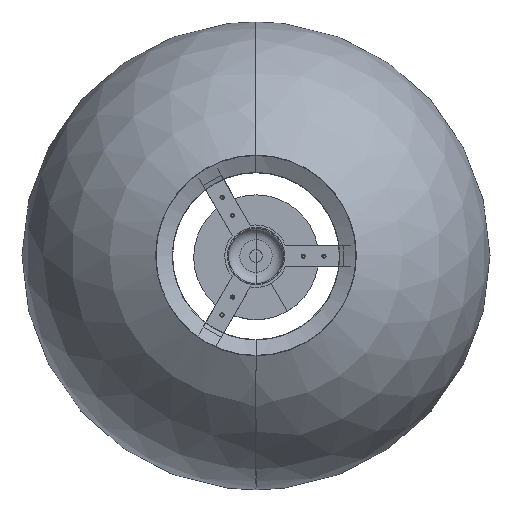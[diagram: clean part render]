
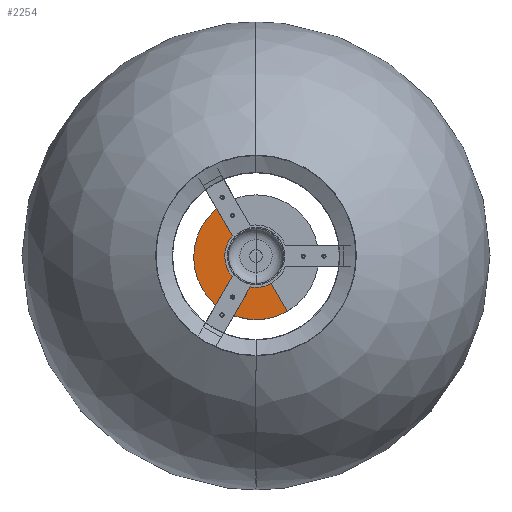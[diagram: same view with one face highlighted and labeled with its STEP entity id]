
A CAD part, top view. The second image highlights one B-rep face of the part: STEP entity #2254.
In plain terms, the highlighted planar face has unit normal (0, 0, 1).
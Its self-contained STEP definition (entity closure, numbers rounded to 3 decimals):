
#37=FACE_BOUND('',#335,.T.);
#110=PLANE('',#2448);
#191=FACE_OUTER_BOUND('',#334,.T.);
#334=EDGE_LOOP('',(#1606,#1607,#1608,#1609,#1610,#1611,#1612,#1613));
#335=EDGE_LOOP('',(#1614,#1615));
#487=LINE('',#4462,#660);
#488=LINE('',#4463,#661);
#489=LINE('',#4464,#662);
#660=VECTOR('',#2825,304.8);
#661=VECTOR('',#2826,304.8);
#662=VECTOR('',#2827,304.8);
#836=CIRCLE('',#2418,5.125);
#837=CIRCLE('',#2420,5.125);
#846=CIRCLE('',#2432,5.125);
#847=CIRCLE('',#2434,5.125);
#849=CIRCLE('',#2437,5.125);
#856=CIRCLE('',#2445,5.125);
#858=CIRCLE('',#2449,60.);
#978=VERTEX_POINT('',#4396);
#982=VERTEX_POINT('',#4404);
#983=VERTEX_POINT('',#4408);
#990=VERTEX_POINT('',#4428);
#992=VERTEX_POINT('',#4432);
#993=VERTEX_POINT('',#4439);
#995=VERTEX_POINT('',#4442);
#1000=VERTEX_POINT('',#4455);
#1001=VERTEX_POINT('',#4459);
#1002=VERTEX_POINT('',#4460);
#1200=EDGE_CURVE('',#978,#982,#836,.T.);
#1201=EDGE_CURVE('',#983,#978,#837,.T.);
#1214=EDGE_CURVE('',#990,#992,#846,.T.);
#1215=EDGE_CURVE('',#992,#990,#847,.T.);
#1218=EDGE_CURVE('',#995,#993,#849,.T.);
#1226=EDGE_CURVE('',#993,#1000,#856,.T.);
#1228=EDGE_CURVE('',#982,#1001,#487,.T.);
#1229=EDGE_CURVE('',#1000,#983,#488,.T.);
#1230=EDGE_CURVE('',#1002,#995,#489,.T.);
#1231=EDGE_CURVE('',#1002,#1001,#858,.T.);
#1606=ORIENTED_EDGE('',*,*,#1231,.F.);
#1607=ORIENTED_EDGE('',*,*,#1230,.T.);
#1608=ORIENTED_EDGE('',*,*,#1218,.T.);
#1609=ORIENTED_EDGE('',*,*,#1226,.T.);
#1610=ORIENTED_EDGE('',*,*,#1229,.T.);
#1611=ORIENTED_EDGE('',*,*,#1201,.T.);
#1612=ORIENTED_EDGE('',*,*,#1200,.T.);
#1613=ORIENTED_EDGE('',*,*,#1228,.T.);
#1614=ORIENTED_EDGE('',*,*,#1215,.T.);
#1615=ORIENTED_EDGE('',*,*,#1214,.T.);
#2254=ADVANCED_FACE('',(#191,#37),#110,.F.);
#2418=AXIS2_PLACEMENT_3D('',#4406,#2759,#2760);
#2420=AXIS2_PLACEMENT_3D('',#4409,#2763,#2764);
#2432=AXIS2_PLACEMENT_3D('',#4434,#2791,#2792);
#2434=AXIS2_PLACEMENT_3D('',#4436,#2795,#2796);
#2437=AXIS2_PLACEMENT_3D('',#4443,#2802,#2803);
#2445=AXIS2_PLACEMENT_3D('',#4457,#2819,#2820);
#2448=AXIS2_PLACEMENT_3D('',#4465,#2828,#2829);
#2449=AXIS2_PLACEMENT_3D('',#4466,#2830,#2831);
#2759=DIRECTION('center_axis',(0.,0.,-1.));
#2760=DIRECTION('ref_axis',(1.,0.,0.));
#2763=DIRECTION('center_axis',(0.,0.,-1.));
#2764=DIRECTION('ref_axis',(1.,0.,0.));
#2791=DIRECTION('center_axis',(0.,0.,-1.));
#2792=DIRECTION('ref_axis',(-0.5,0.866,0.));
#2795=DIRECTION('center_axis',(0.,0.,-1.));
#2796=DIRECTION('ref_axis',(-0.5,0.866,0.));
#2802=DIRECTION('center_axis',(0.,0.,-1.));
#2803=DIRECTION('ref_axis',(-1.,0.,0.));
#2819=DIRECTION('center_axis',(0.,0.,-1.));
#2820=DIRECTION('ref_axis',(-1.,0.,0.));
#2825=DIRECTION('',(0.,1.,0.));
#2826=DIRECTION('',(0.,1.,0.));
#2827=DIRECTION('',(0.,1.,0.));
#2828=DIRECTION('center_axis',(0.,0.,-1.));
#2829=DIRECTION('ref_axis',(0.,-1.,0.));
#2830=DIRECTION('center_axis',(0.,0.,-1.));
#2831=DIRECTION('ref_axis',(0.,-1.,0.));
#4396=CARTESIAN_POINT('',(-5.125,45.,26.));
#4404=CARTESIAN_POINT('',(0.,50.125,26.));
#4406=CARTESIAN_POINT('Origin',(0.,45.,26.));
#4408=CARTESIAN_POINT('',(0.,39.875,26.));
#4409=CARTESIAN_POINT('Origin',(0.,45.,26.));
#4428=CARTESIAN_POINT('',(-36.409,-26.938,26.));
#4432=CARTESIAN_POINT('',(-41.534,-18.062,26.));
#4434=CARTESIAN_POINT('Origin',(-38.971,-22.5,26.));
#4436=CARTESIAN_POINT('Origin',(-38.971,-22.5,26.));
#4439=CARTESIAN_POINT('',(-5.125,0.,26.));
#4442=CARTESIAN_POINT('',(0.,-5.125,26.));
#4443=CARTESIAN_POINT('Origin',(0.,0.,
26.));
#4455=CARTESIAN_POINT('',(0.,5.125,26.));
#4457=CARTESIAN_POINT('Origin',(0.,0.,
26.));
#4459=CARTESIAN_POINT('',(0.,60.,26.));
#4460=CARTESIAN_POINT('',(0.,-60.,26.));
#4462=CARTESIAN_POINT('',(0.,50.125,26.));
#4463=CARTESIAN_POINT('',(0.,5.125,26.));
#4464=CARTESIAN_POINT('',(0.,-60.,26.));
#4465=CARTESIAN_POINT('Origin',(0.,0.,
26.));
#4466=CARTESIAN_POINT('Origin',(0.,0.,
26.));
